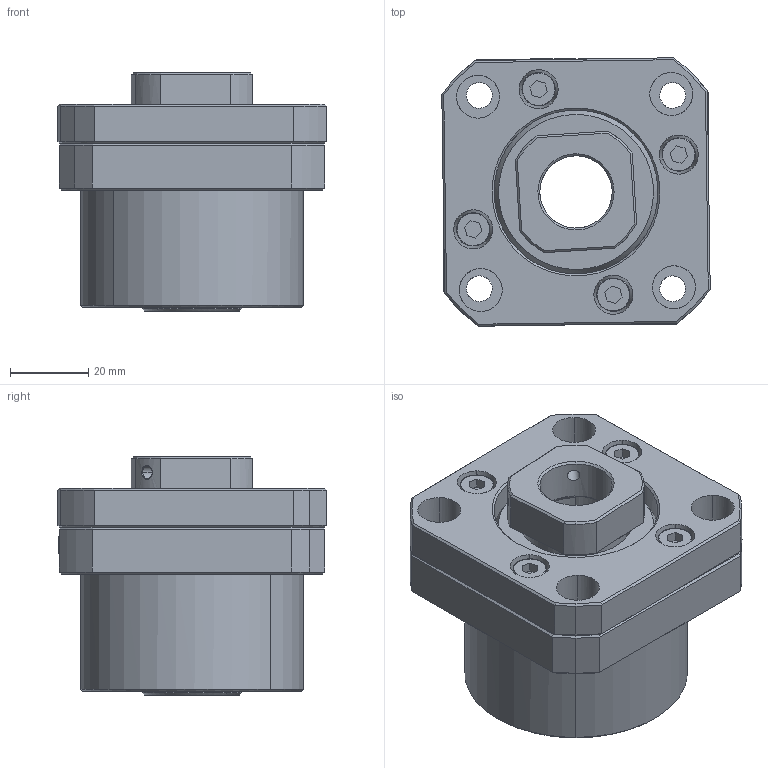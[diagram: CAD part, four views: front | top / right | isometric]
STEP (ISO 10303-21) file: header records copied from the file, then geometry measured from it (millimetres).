
FILE_DESCRIPTION (( 'STEP AP214' ), '1' );
FILE_NAME ('7.420 FK20.STEP', '2026-03-06T07:37:08', ( '' ), ( '' ), 'SwSTEP 2.0', 'SolidWorks 2025', '' );
FILE_SCHEMA (( 'AUTOMOTIVE_DESIGN' ));
Length unit declared in the file: millimetre
Products named in the file (1): 7.420 FK20
Bounding box: 68.72 x 68.72 x 61 mm (x, y, z)
Surface area: 36940.3 mm2 (no closed solid volume)
Topology: 0 solids, 10 shells, 263 faces, 687 edges, 440 vertices
Faces by surface type: plane 109, cylinder 69, cone 56, bspline 29
Entity records: 14316 total; most frequent: CARTESIAN_POINT 8978, ORIENTED_EDGE 1322, EDGE_CURVE 687, B_SPLINE_CURVE_WITH_KNOTS 667, DIRECTION 470, VERTEX_POINT 440, EDGE_LOOP 311, ADVANCED_FACE 263
